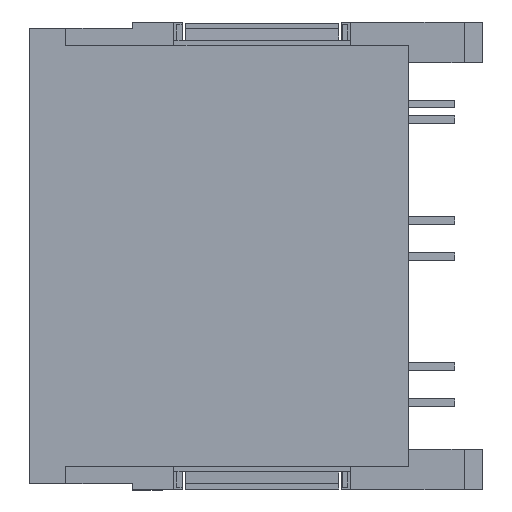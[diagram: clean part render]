
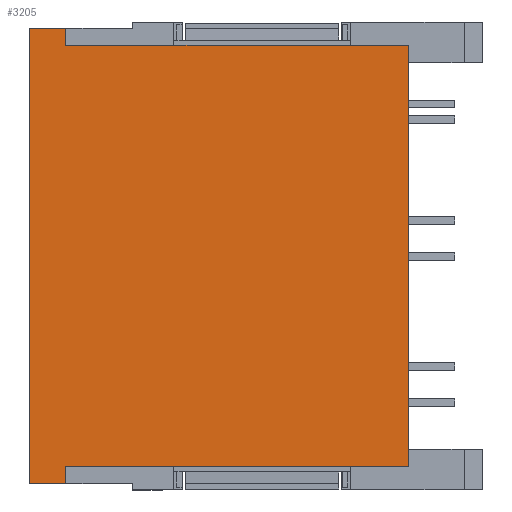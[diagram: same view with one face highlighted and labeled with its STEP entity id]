
A CAD part, top view. The second image highlights one B-rep face of the part: STEP entity #3205.
In plain terms, the highlighted planar face has unit normal (0, 0, 1).
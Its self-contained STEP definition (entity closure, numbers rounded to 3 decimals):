
#3176=AXIS2_PLACEMENT_3D('Plane Axis2P3D',#3173,#3174,#3175) ;
#435=CARTESIAN_POINT('Vertex',(-13.,3.25,5.7)) ;
#438=CARTESIAN_POINT('Line Origine',(-3.5,3.25,5.7)) ;
#442=CARTESIAN_POINT('Vertex',(6.,3.25,5.7)) ;
#896=CARTESIAN_POINT('Vertex',(6.,-20.1,5.7)) ;
#899=CARTESIAN_POINT('Line Origine',(-3.5,-20.1,5.7)) ;
#903=CARTESIAN_POINT('Vertex',(-13.,-20.1,5.7)) ;
#1665=CARTESIAN_POINT('Line Origine',(6.,-8.425,5.7)) ;
#2561=CARTESIAN_POINT('Vertex',(-15.,4.2,5.7)) ;
#2568=CARTESIAN_POINT('Vertex',(-15.,-21.05,5.7)) ;
#2571=CARTESIAN_POINT('Line Origine',(-15.,-8.425,5.7)) ;
#3003=CARTESIAN_POINT('Vertex',(-13.,4.2,5.7)) ;
#3006=CARTESIAN_POINT('Line Origine',(-13.,3.725,5.7)) ;
#3173=CARTESIAN_POINT('Axis2P3D Location',(0.,-25.675,5.7)) ;
#3178=CARTESIAN_POINT('Line Origine',(-14.,4.2,5.7)) ;
#3183=CARTESIAN_POINT('Line Origine',(-14.,-21.05,5.7)) ;
#3187=CARTESIAN_POINT('Vertex',(-13.,-21.05,5.7)) ;
#3190=CARTESIAN_POINT('Line Origine',(-13.,-20.575,5.7)) ;
#439=DIRECTION('Vector Direction',(1.,0.,0.)) ;
#900=DIRECTION('Vector Direction',(1.,0.,0.)) ;
#1666=DIRECTION('Vector Direction',(0.,1.,0.)) ;
#2572=DIRECTION('Vector Direction',(0.,1.,0.)) ;
#3007=DIRECTION('Vector Direction',(0.,1.,0.)) ;
#3174=DIRECTION('Axis2P3D Direction',(0.,0.,-1.)) ;
#3175=DIRECTION('Axis2P3D XDirection',(0.,1.,0.)) ;
#3179=DIRECTION('Vector Direction',(-1.,0.,0.)) ;
#3184=DIRECTION('Vector Direction',(1.,0.,0.)) ;
#3191=DIRECTION('Vector Direction',(0.,1.,0.)) ;
#440=VECTOR('Line Direction',#439,1.) ;
#901=VECTOR('Line Direction',#900,1.) ;
#1667=VECTOR('Line Direction',#1666,1.) ;
#2573=VECTOR('Line Direction',#2572,1.) ;
#3008=VECTOR('Line Direction',#3007,1.) ;
#3180=VECTOR('Line Direction',#3179,1.) ;
#3185=VECTOR('Line Direction',#3184,1.) ;
#3192=VECTOR('Line Direction',#3191,1.) ;
#3196=ORIENTED_EDGE('',*,*,#444,.F.) ;
#3197=ORIENTED_EDGE('',*,*,#3010,.T.) ;
#3198=ORIENTED_EDGE('',*,*,#3182,.T.) ;
#3199=ORIENTED_EDGE('',*,*,#2575,.F.) ;
#3200=ORIENTED_EDGE('',*,*,#3189,.T.) ;
#3201=ORIENTED_EDGE('',*,*,#3194,.T.) ;
#3202=ORIENTED_EDGE('',*,*,#905,.T.) ;
#3203=ORIENTED_EDGE('',*,*,#1669,.T.) ;
#3205=ADVANCED_FACE('\X2\FF8EFF9EFF83FF9EFF68FF70\X0\1',(#3204),#3177,.F.) ;
#444=EDGE_CURVE('',#436,#443,#441,.T.) ;
#905=EDGE_CURVE('',#904,#897,#902,.T.) ;
#1669=EDGE_CURVE('',#897,#443,#1668,.T.) ;
#2575=EDGE_CURVE('',#2569,#2562,#2574,.T.) ;
#3010=EDGE_CURVE('',#436,#3004,#3009,.T.) ;
#3182=EDGE_CURVE('',#3004,#2562,#3181,.T.) ;
#3189=EDGE_CURVE('',#2569,#3188,#3186,.T.) ;
#3194=EDGE_CURVE('',#3188,#904,#3193,.T.) ;
#3195=EDGE_LOOP('',(#3196,#3197,#3198,#3199,#3200,#3201,#3202,#3203)) ;
#3204=FACE_OUTER_BOUND('',#3195,.T.) ;
#441=LINE('Line',#438,#440) ;
#902=LINE('Line',#899,#901) ;
#1668=LINE('Line',#1665,#1667) ;
#2574=LINE('Line',#2571,#2573) ;
#3009=LINE('Line',#3006,#3008) ;
#3181=LINE('Line',#3178,#3180) ;
#3186=LINE('Line',#3183,#3185) ;
#3193=LINE('Line',#3190,#3192) ;
#3177=PLANE('',#3176) ;
#436=VERTEX_POINT('',#435) ;
#443=VERTEX_POINT('',#442) ;
#897=VERTEX_POINT('',#896) ;
#904=VERTEX_POINT('',#903) ;
#2562=VERTEX_POINT('',#2561) ;
#2569=VERTEX_POINT('',#2568) ;
#3004=VERTEX_POINT('',#3003) ;
#3188=VERTEX_POINT('',#3187) ;
